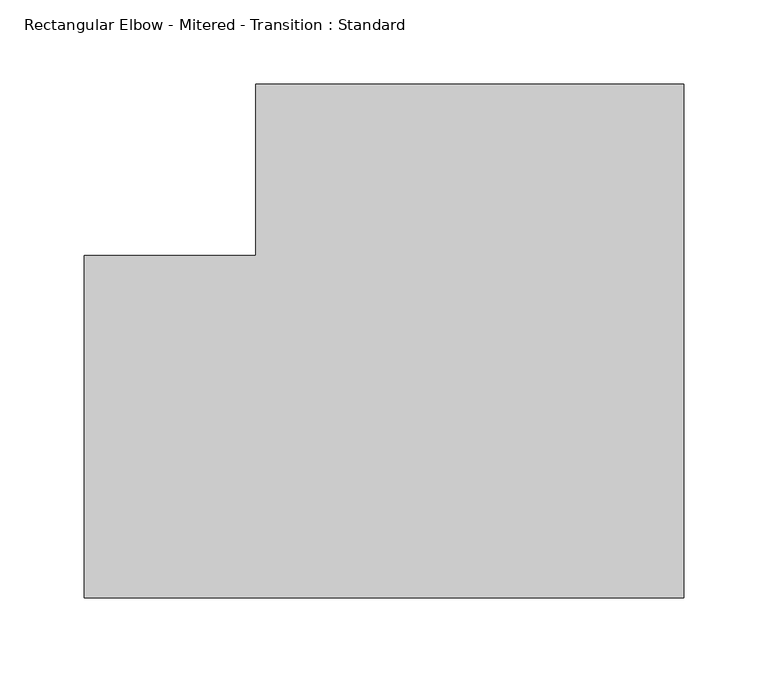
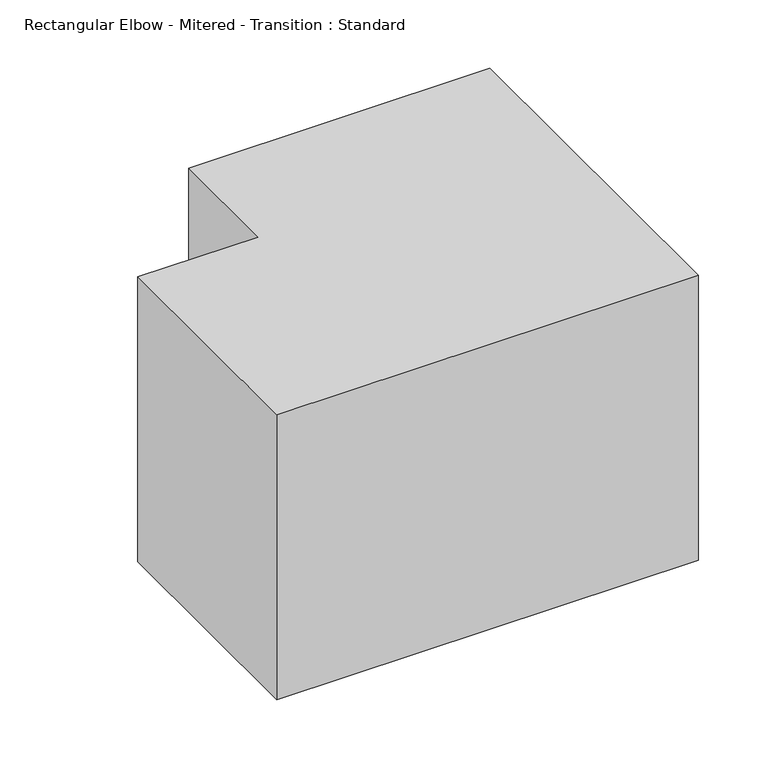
"""IFC4 building model written with IfcOpenShell, lengths in millimetres: duct fitting geometry, Rectangular Elbow - Mitered - Transition : Standard."""

from ifc_helpers import new_model, si_unit, frame, origin, place, context, project, spatial, polyline, outline, extrude, source, transform, mapped, element, save


def rectangular_elbow_mitered_transition_standard_34e7224c(model_context):
    return source(origin(), model_context, "Body", "SweptSolid", [
        extrude(outline(polyline([(-127.0, 101.6), (-127.0, 203.2), (127.0, 203.2), (127.0, -101.6), (-228.6, -101.6), (-228.6, 101.6), (-127.0, 101.6)])), frame((0.0, 0.0, -127.0), z_axis=(0.0, 0.0, 1.0), x_axis=(1.0, 0.0, 0.0)), (0.0, 0.0, 1.0), 254.0),
    ])


if __name__ == "__main__":
    model = new_model("IFC4")
    model_context = context("Model", 3, world=origin())
    ifc_project = project(units=[si_unit("LENGTHUNIT", "METRE", prefix="MILLI")], contexts=[model_context])
    site = spatial("IfcSite", under=ifc_project)
    building = spatial("IfcBuilding", under=site)
    placement = place(None, origin())
    rectangular_elbow_mitered_transition_standard_shape = rectangular_elbow_mitered_transition_standard_34e7224c(model_context)
    element("IfcDuctFitting", 1, ObjectType="Rectangular Elbow - Mitered - Transition : Standard", at=placement, inside=building, context=model_context, shape_type="MappedRepresentation", body=[
        mapped(rectangular_elbow_mitered_transition_standard_shape, transform((0.0, 0.0, 0.0), x_axis=(1.0, 0.0, 0.0), y_axis=(0.0, 1.0, 0.0), z_axis=(0.0, 0.0, 1.0))),
    ])
    save(model, "model.ifc")
